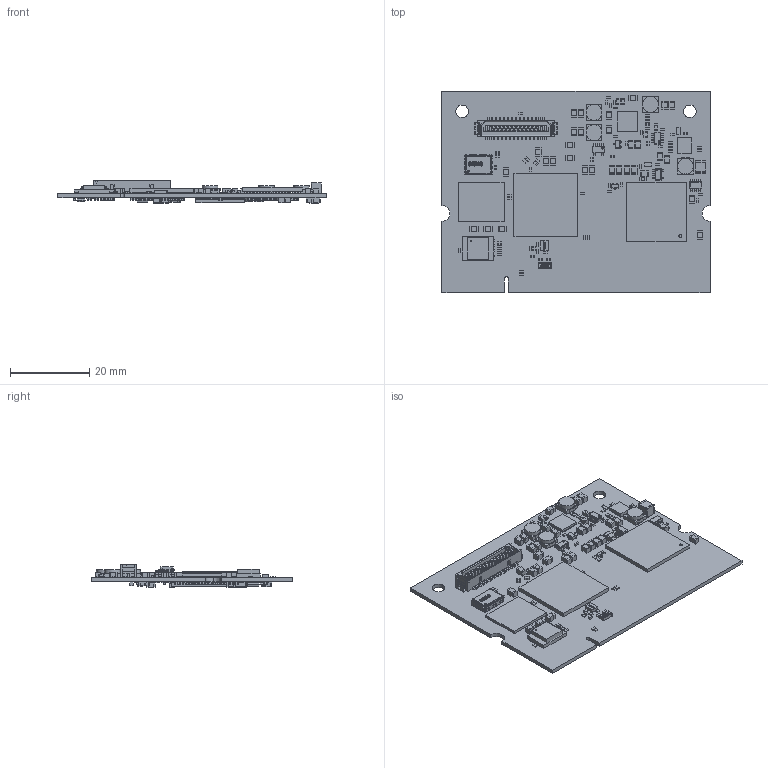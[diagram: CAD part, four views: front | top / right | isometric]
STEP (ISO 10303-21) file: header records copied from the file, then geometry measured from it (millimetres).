
FILE_DESCRIPTION(('Open CASCADE Model'),'2;1');
FILE_NAME('Open CASCADE Shape Model','2021-12-13T10:00:22',('Author'),( 'Open CASCADE'),'Open CASCADE STEP processor 6.8','Open CASCADE 6.8' ,'Unknown');
FILE_SCHEMA(('AUTOMOTIVE_DESIGN { 1 0 10303 214 1 1 1 1 }'));
Length unit declared in the file: millimetre
Products named in the file (511): PCB; Board; Open CASCADE STEP translator 6.8 1.1.1; Open CASCADE STEP translator 6.8 1.1.1.1; R37; 6355175024; Extruded; 6355174864; 6355174624; R16; R15; 6355168224; 6355168064; 6355168384; U14; SOT-23-5_H145; NOPB; Component1; Component2; Component3; Component4; Component5; Component6; Component7; L8; 6249835392; 6249835152; L7; 6249836832; 6249836592; C175; 6355166864; 6355166704; C174; C173; 6355170304; 6355170144; U13; 6258134400; Body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
Assembly tree (1268 placements, depth 5):
  PCB
    Board
      Open CASCADE STEP translator 6.8 1.1.1
        Open CASCADE STEP translator 6.8 1.1.1.1
    R37
      6355175024  x2
        Extruded
      6355174864
        Extruded
      6355174624
        Extruded
    R16
      6355175024  x2
        Extruded
      6355174864
        Extruded
      6355174624
        Extruded
    R15
      6355168224  x2
        Extruded
      6355168064
        Extruded
      6355168384
        Extruded
    U14
      SOT-23-5_H145
        NOPB
          Component1
          Component2
          Component3
          Component4
          Component5
          Component6
          Component7
    L8
      6249835392  x2
        Extruded
      6249835152
        Extruded
    L7
      6249836832  x2
        Extruded
      6249836592
        Extruded
    C175
      6355166864  x2
        Extruded
      6355166704
        Extruded
    C174
      6355166864  x2
        Extruded
      6355166704
        Extruded
    C173
      6355170304  x2
        Extruded
      6355170144
        Extruded
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Bounding box: 67.6 x 50.8 x 5.68 mm (x, y, z)
Volume: 5090.9 mm3; surface area: 13026.7 mm2
Topology: 1315 solids, 1315 shells, 9716 faces, 22394 edges, 14666 vertices
Faces by surface type: plane 7913, cylinder 1187, sphere 392, extrusion 110, bspline 90, cone 14, torus 6, revolution 4
Full cylindrical faces by diameter (mm): 0.274 x1, 0.751 x1, 0.925 x1, 1.35 x2, 3.174 x2, 4 x4
Entity records: 183650 total; most frequent: CARTESIAN_POINT 33374, DIRECTION 25821, ORIENTED_EDGE 23756, EDGE_CURVE 11878, VECTOR 9215, LINE 9105, AXIS2_PLACEMENT_3D 8301, VERTEX_POINT 8066
